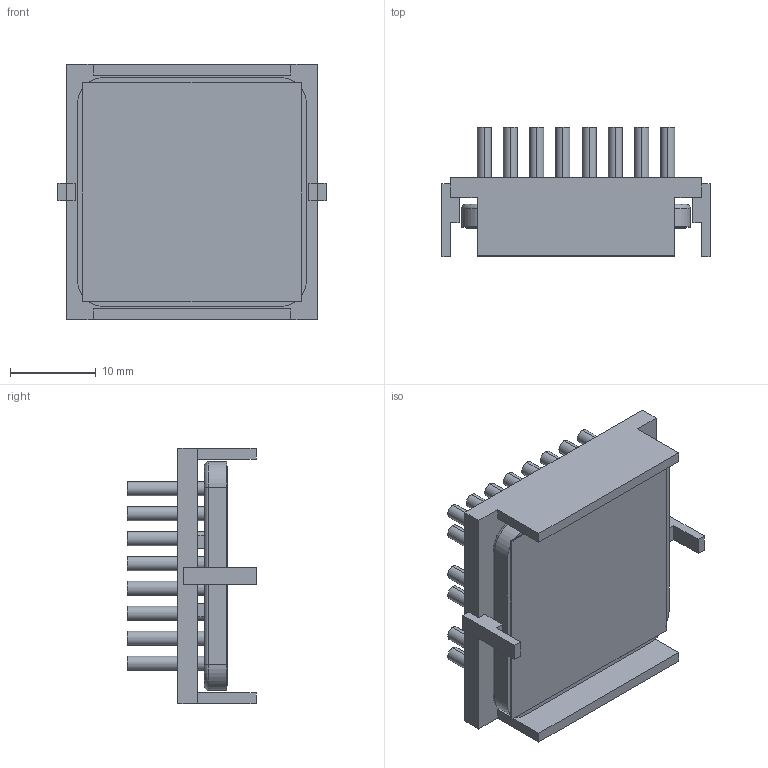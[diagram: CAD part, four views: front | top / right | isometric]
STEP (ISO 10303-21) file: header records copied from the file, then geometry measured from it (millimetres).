
FILE_DESCRIPTION (( 'STEP AP214' ), '1' );
FILE_NAME ('INM27002-12P-2.6Y.STEP', '2023-02-17T20:23:38', ( '' ), ( '' ), 'SwSTEP 2.0', 'SolidWorks 2020', '' );
FILE_SCHEMA (( 'AUTOMOTIVE_DESIGN' ));
Length unit declared in the file: inch
Products named in the file (1): INM27002-12P-2.6Y
Bounding box: 31.2 x 15.1 x 29.7 mm (x, y, z)
Volume: 4297.7 mm3; surface area: 7698.1 mm2
Topology: 3 solids, 3 shells, 250 faces, 556 edges, 368 vertices
Faces by surface type: plane 126, cylinder 120, torus 4
Entity records: 10316 total; most frequent: DIRECTION 1302, CARTESIAN_POINT 1175, ORIENTED_EDGE 1112, EDGE_CURVE 556, AXIS2_PLACEMENT_3D 495, VERTEX_POINT 368, VECTOR 312, LINE 312
